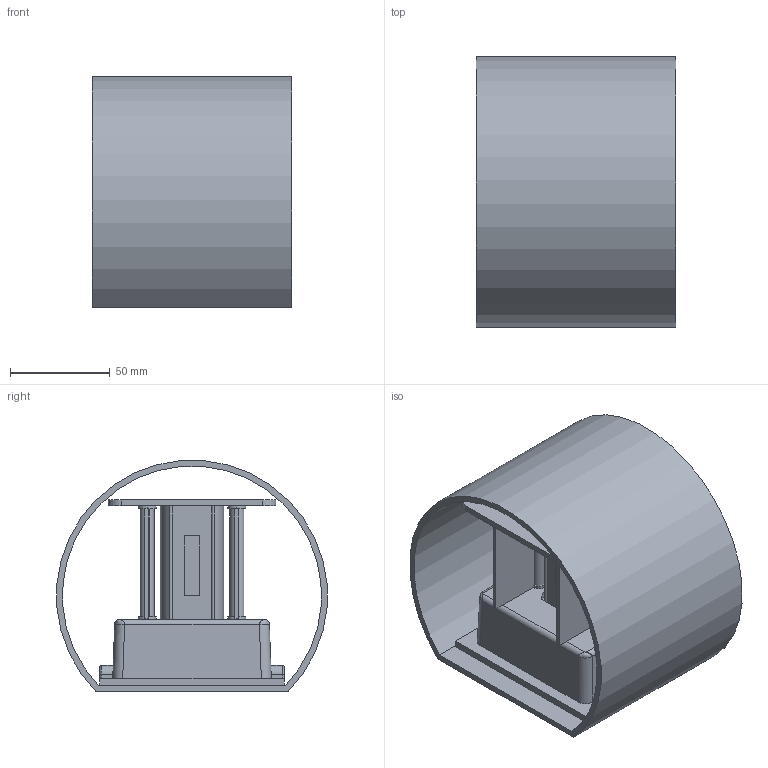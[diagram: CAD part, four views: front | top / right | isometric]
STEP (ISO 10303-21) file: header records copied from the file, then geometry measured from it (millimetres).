
FILE_DESCRIPTION (( 'STEP AP214' ), '1' );
FILE_NAME ('KOWA-A2033070.STEP', '2026-01-14T08:37:49', ( '' ), ( '' ), 'SwSTEP 2.0', 'SolidWorks 2025', '' );
FILE_SCHEMA (( 'AUTOMOTIVE_DESIGN' ));
Length unit declared in the file: millimetre
Products named in the file (12): 玻璃_3; BISEL KOWA_KOWA BISEL 100 - K0018040; 310装配-2-27_3; KOWA-A2033070; M5X6内六角_ZhuangPei(1)_310装配_3; ZhuangPei(1)_310装配_3; 硅胶垫_3; 型材.1_3; GW-A310(2); Part3_ZhuangPei(1)_310装配_3; Part2_ZhuangPei(1)_310装配_3; 叶片_3
Assembly tree (18 placements, depth 5):
  KOWA-A2033070
    GW-A310(2)
      310装配-2-27_3
        ZhuangPei(1)_310装配_3
          M5X6内六角_ZhuangPei(1)_310装配_3
          Part2_ZhuangPei(1)_310装配_3
          Part3_ZhuangPei(1)_310装配_3
        玻璃_3  x2
        硅胶垫_3  x4
        叶片_3  x2
      型材.1_3
      叶片_3  x2
    BISEL KOWA_KOWA BISEL 100 - K0018040
Bounding box: 100 x 135.5 x 115.74 mm (x, y, z)
Volume: 216875.1 mm3; surface area: 169080.7 mm2
Topology: 16 solids, 18 shells, 642 faces, 1675 edges, 1104 vertices
Faces by surface type: plane 274, cylinder 199, bspline 84, torus 45, cone 40
Full cylindrical faces by diameter (mm): 2 x1
Entity records: 22113 total; most frequent: CARTESIAN_POINT 8372, ORIENTED_EDGE 2954, DIRECTION 2476, EDGE_CURVE 1477, VERTEX_POINT 974, AXIS2_PLACEMENT_3D 878, VECTOR 720, LINE 720
